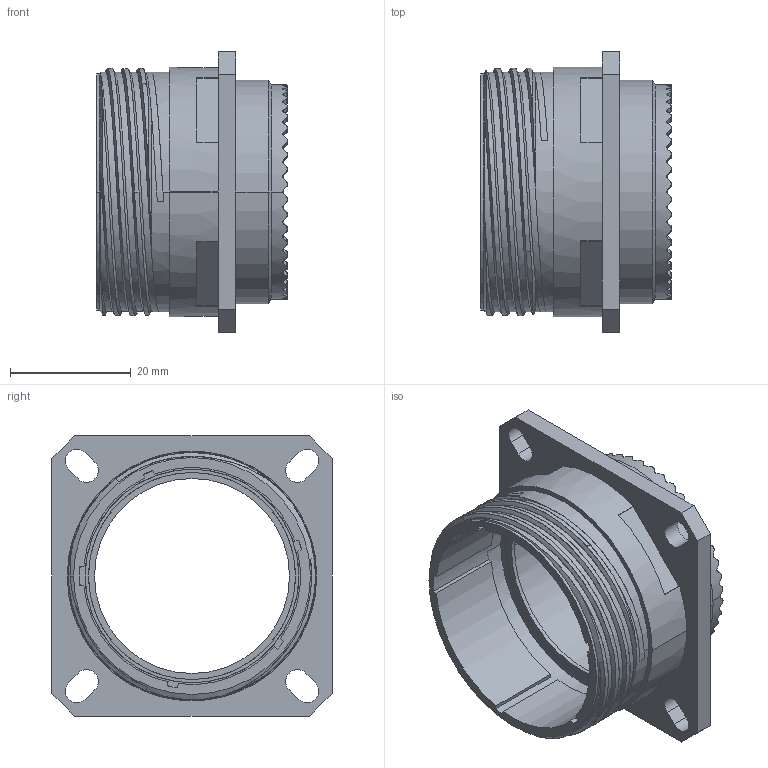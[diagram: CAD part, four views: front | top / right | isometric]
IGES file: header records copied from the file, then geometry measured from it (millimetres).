
Start section:  PTC IGES file: tv00_25_recp-shell.igs
Global section: file name: tv00_25_recp-shell.igs; native system: Creo Parametric by PTC Inc.; preprocessor: 2016260; author: t-nakamura; organization: Unknown; date: 20170622.211452; units: millimetre
Bounding box: 31.5 x 46.4 x 46.4 mm (x, y, z)
Surface area: 10745.2 mm2 (no closed solid volume)
Topology: 0 solids, 0 shells, 370 faces, 2170 edges, 2170 vertices
Faces by surface type: bspline 196, revolution 174
